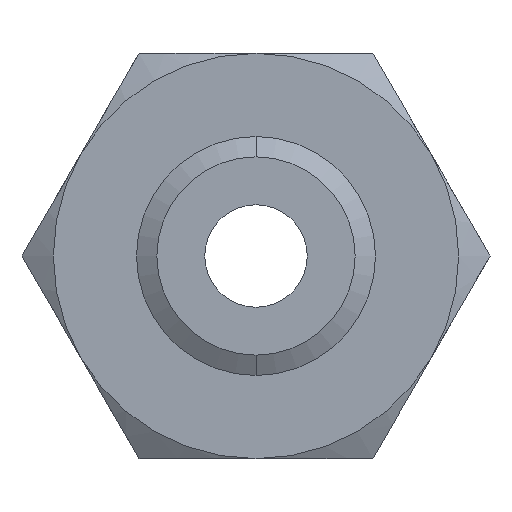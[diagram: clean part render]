
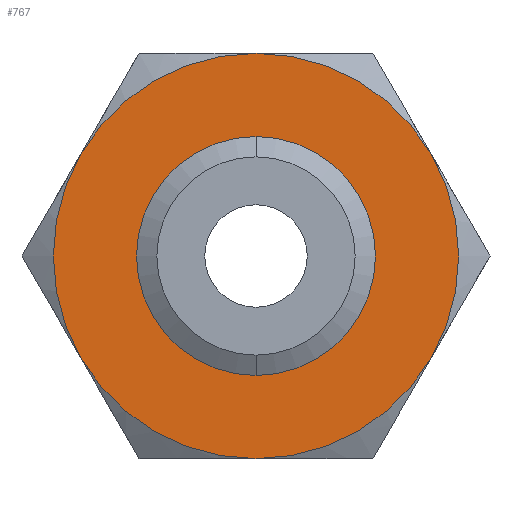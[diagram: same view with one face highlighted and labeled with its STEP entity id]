
A CAD part, front view. The second image highlights one B-rep face of the part: STEP entity #767.
In plain terms, the highlighted planar face has unit normal (0, -1, 0).
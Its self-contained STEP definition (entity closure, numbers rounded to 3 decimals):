
#304 = AXIS2_PLACEMENT_3D ( 'NONE', #366, #365, #364 ) ;
#305 = CIRCLE ( 'NONE', #304, 23.237 ) ;
#312 = CARTESIAN_POINT ( 'NONE',  ( 0., 0., -23.237 ) ) ;
#313 = CARTESIAN_POINT ( 'NONE',  ( 0., 0., 23.237 ) ) ;
#364 = DIRECTION ( 'NONE',  ( 0., 0., -1. ) ) ;
#365 = DIRECTION ( 'NONE',  ( 0., -1., 0. ) ) ;
#366 = CARTESIAN_POINT ( 'NONE',  ( 0., 0., 0. ) ) ;
#738 = ORIENTED_EDGE ( 'NONE', *, *, #739, .F. ) ;
#739 = EDGE_CURVE ( 'NONE', #2251, #2253, #1585, .T. ) ;
#742 = ORIENTED_EDGE ( 'NONE', *, *, #743, .F. ) ;
#743 = EDGE_CURVE ( 'NONE', #744, #748, #1635, .T. ) ;
#744 = VERTEX_POINT ( 'NONE', #1631 ) ;
#745 = EDGE_LOOP ( 'NONE', ( #756, #765, #742, #759, #747, #764 ) ) ;
#746 = VERTEX_POINT ( 'NONE', #1630 ) ;
#747 = ORIENTED_EDGE ( 'NONE', *, *, #762, .F. ) ;
#748 = VERTEX_POINT ( 'NONE', #1629 ) ;
#749 = VERTEX_POINT ( 'NONE', #1628 ) ;
#750 = EDGE_CURVE ( 'NONE', #749, #763, #1627, .T. ) ;
#751 = EDGE_LOOP ( 'NONE', ( #752, #738 ) ) ;
#752 = ORIENTED_EDGE ( 'NONE', *, *, #2256, .F. ) ;
#756 = ORIENTED_EDGE ( 'NONE', *, *, #757, .F. ) ;
#757 = EDGE_CURVE ( 'NONE', #746, #749, #1616, .T. ) ;
#759 = ORIENTED_EDGE ( 'NONE', *, *, #760, .F. ) ;
#760 = EDGE_CURVE ( 'NONE', #761, #744, #1671, .T. ) ;
#761 = VERTEX_POINT ( 'NONE', #1666 ) ;
#762 = EDGE_CURVE ( 'NONE', #763, #761, #1664, .T. ) ;
#763 = VERTEX_POINT ( 'NONE', #1665 ) ;
#764 = ORIENTED_EDGE ( 'NONE', *, *, #750, .F. ) ;
#765 = ORIENTED_EDGE ( 'NONE', *, *, #766, .F. ) ;
#766 = EDGE_CURVE ( 'NONE', #748, #746, #1659, .T. ) ;
#767 = ADVANCED_FACE ( 'NONE', ( #1654, #1653 ), #1652, .F. ) ;
#1581 = DIRECTION ( 'NONE',  ( 0., 0., -1. ) ) ;
#1582 = DIRECTION ( 'NONE',  ( 0., -1., 0. ) ) ;
#1583 = CARTESIAN_POINT ( 'NONE',  ( 0., 0., 0. ) ) ;
#1584 = AXIS2_PLACEMENT_3D ( 'NONE', #1583, #1582, #1581 ) ;
#1585 = CIRCLE ( 'NONE', #1584, 23.237 ) ;
#1612 = DIRECTION ( 'NONE',  ( 0., 0., 1. ) ) ;
#1613 = DIRECTION ( 'NONE',  ( 0., 1., 0. ) ) ;
#1614 = CARTESIAN_POINT ( 'NONE',  ( 0., 0., 0. ) ) ;
#1615 = AXIS2_PLACEMENT_3D ( 'NONE', #1614, #1613, #1612 ) ;
#1616 = CIRCLE ( 'NONE', #1615, 47.5 ) ;
#1623 = DIRECTION ( 'NONE',  ( 0., 0., 1. ) ) ;
#1624 = DIRECTION ( 'NONE',  ( 0., 1., 0. ) ) ;
#1625 = CARTESIAN_POINT ( 'NONE',  ( 0., 0., 0. ) ) ;
#1626 = AXIS2_PLACEMENT_3D ( 'NONE', #1625, #1624, #1623 ) ;
#1627 = CIRCLE ( 'NONE', #1626, 47.5 ) ;
#1628 = CARTESIAN_POINT ( 'NONE',  ( 41.136, 0., 23.75 ) ) ;
#1629 = CARTESIAN_POINT ( 'NONE',  ( -41.136, 0., 23.75 ) ) ;
#1630 = CARTESIAN_POINT ( 'NONE',  ( 0., 0., 47.5 ) ) ;
#1631 = CARTESIAN_POINT ( 'NONE',  ( -41.136, 0., -23.75 ) ) ;
#1632 = DIRECTION ( 'NONE',  ( 0., 0., 1. ) ) ;
#1633 = DIRECTION ( 'NONE',  ( 0., 1., 0. ) ) ;
#1634 = AXIS2_PLACEMENT_3D ( 'NONE', #1639, #1633, #1632 ) ;
#1635 = CIRCLE ( 'NONE', #1634, 47.5 ) ;
#1639 = CARTESIAN_POINT ( 'NONE',  ( 0., 0., 0. ) ) ;
#1647 = DIRECTION ( 'NONE',  ( 0., 0., 1. ) ) ;
#1648 = DIRECTION ( 'NONE',  ( 0., 1., 0. ) ) ;
#1649 = CARTESIAN_POINT ( 'NONE',  ( 27.424, 0., -47.5 ) ) ;
#1651 = AXIS2_PLACEMENT_3D ( 'NONE', #1649, #1648, #1647 ) ;
#1652 = PLANE ( 'NONE',  #1651 ) ;
#1653 = FACE_BOUND ( 'NONE', #751, .T. ) ;
#1654 = FACE_OUTER_BOUND ( 'NONE', #745, .T. ) ;
#1655 = DIRECTION ( 'NONE',  ( 0., 0., 1. ) ) ;
#1656 = DIRECTION ( 'NONE',  ( 0., 1., 0. ) ) ;
#1657 = CARTESIAN_POINT ( 'NONE',  ( 0., 0., 0. ) ) ;
#1658 = AXIS2_PLACEMENT_3D ( 'NONE', #1657, #1656, #1655 ) ;
#1659 = CIRCLE ( 'NONE', #1658, 47.5 ) ;
#1660 = DIRECTION ( 'NONE',  ( 0., 0., 1. ) ) ;
#1661 = DIRECTION ( 'NONE',  ( 0., 1., 0. ) ) ;
#1662 = CARTESIAN_POINT ( 'NONE',  ( 0., 0., 0. ) ) ;
#1663 = AXIS2_PLACEMENT_3D ( 'NONE', #1662, #1661, #1660 ) ;
#1664 = CIRCLE ( 'NONE', #1663, 47.5 ) ;
#1665 = CARTESIAN_POINT ( 'NONE',  ( 41.136, 0., -23.75 ) ) ;
#1666 = CARTESIAN_POINT ( 'NONE',  ( 0., 0., -47.5 ) ) ;
#1667 = DIRECTION ( 'NONE',  ( 0., 0., 1. ) ) ;
#1668 = DIRECTION ( 'NONE',  ( 0., 1., 0. ) ) ;
#1669 = CARTESIAN_POINT ( 'NONE',  ( 0., 0., 0. ) ) ;
#1670 = AXIS2_PLACEMENT_3D ( 'NONE', #1669, #1668, #1667 ) ;
#1671 = CIRCLE ( 'NONE', #1670, 47.5 ) ;
#2251 = VERTEX_POINT ( 'NONE', #313 ) ;
#2253 = VERTEX_POINT ( 'NONE', #312 ) ;
#2256 = EDGE_CURVE ( 'NONE', #2253, #2251, #305, .T. ) ;
